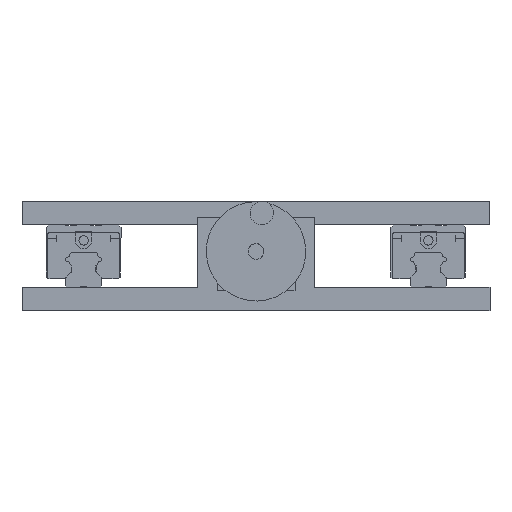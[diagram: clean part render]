
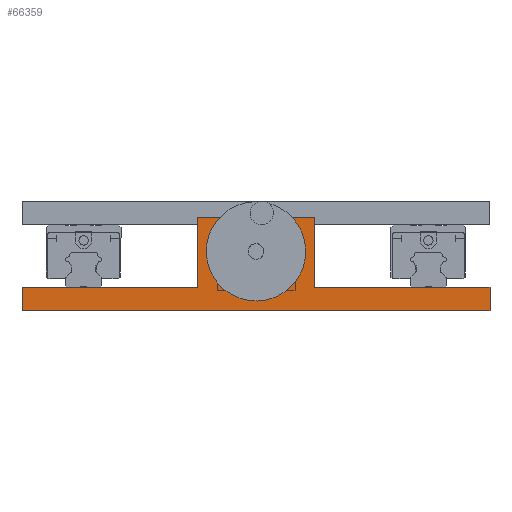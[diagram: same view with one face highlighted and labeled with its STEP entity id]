
A CAD part, front view. The second image highlights one B-rep face of the part: STEP entity #66359.
In plain terms, the highlighted planar face has unit normal (0, -1, 0).
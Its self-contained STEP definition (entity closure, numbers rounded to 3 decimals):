
#289 = ORIENTED_EDGE ( 'NONE', *, *, #19655, .F. ) ;
#582 = ORIENTED_EDGE ( 'NONE', *, *, #37392, .T. ) ;
#1109 = CARTESIAN_POINT ( 'NONE',  ( -37.5, -666.5, 15. ) ) ;
#4975 = ORIENTED_EDGE ( 'NONE', *, *, #13966, .F. ) ;
#4990 = VERTEX_POINT ( 'NONE', #6484 ) ;
#5862 = VERTEX_POINT ( 'NONE', #23070 ) ;
#6120 = ORIENTED_EDGE ( 'NONE', *, *, #16783, .F. ) ;
#6167 = DIRECTION ( 'NONE',  ( 0., 0., 1. ) ) ;
#6484 = CARTESIAN_POINT ( 'NONE',  ( -37.5, -666.5, 60. ) ) ;
#6650 = VERTEX_POINT ( 'NONE', #46703 ) ;
#6993 = EDGE_CURVE ( 'NONE', #25674, #30418, #14203, .T. ) ;
#7890 = VECTOR ( 'NONE', #20373, 1000. ) ;
#8882 = CARTESIAN_POINT ( 'NONE',  ( -150., -666.5, 15. ) ) ;
#9298 = ORIENTED_EDGE ( 'NONE', *, *, #6993, .F. ) ;
#9954 = AXIS2_PLACEMENT_3D ( 'NONE', #41459, #35412, #71129 ) ;
#10415 = LINE ( 'NONE', #73735, #31932 ) ;
#13966 = EDGE_CURVE ( 'NONE', #21251, #25674, #32695, .T. ) ;
#14203 = LINE ( 'NONE', #63141, #19069 ) ;
#14385 = CARTESIAN_POINT ( 'NONE',  ( -150., -666.5, 15. ) ) ;
#14650 = VERTEX_POINT ( 'NONE', #33177 ) ;
#15055 = VECTOR ( 'NONE', #55129, 1000. ) ;
#15185 = PLANE ( 'NONE',  #39817 ) ;
#15549 = DIRECTION ( 'NONE',  ( 1., 0., 0. ) ) ;
#16783 = EDGE_CURVE ( 'NONE', #4990, #5862, #27404, .T. ) ;
#18858 = VERTEX_POINT ( 'NONE', #59624 ) ;
#18862 = ORIENTED_EDGE ( 'NONE', *, *, #67741, .T. ) ;
#19069 = VECTOR ( 'NONE', #43354, 1000. ) ;
#19327 = CARTESIAN_POINT ( 'NONE',  ( -37.5, -666.5, 60. ) ) ;
#19655 = EDGE_CURVE ( 'NONE', #5862, #21251, #19944, .T. ) ;
#19944 = LINE ( 'NONE', #80376, #15055 ) ;
#20373 = DIRECTION ( 'NONE',  ( 1., 0., 0. ) ) ;
#21251 = VERTEX_POINT ( 'NONE', #27003 ) ;
#21967 = ORIENTED_EDGE ( 'NONE', *, *, #73510, .F. ) ;
#23070 = CARTESIAN_POINT ( 'NONE',  ( 37.5, -666.5, 60. ) ) ;
#24420 = CIRCLE ( 'NONE', #9954, 5. ) ;
#24812 = ORIENTED_EDGE ( 'NONE', *, *, #77506, .F. ) ;
#25674 = VERTEX_POINT ( 'NONE', #41218 ) ;
#26501 = VERTEX_POINT ( 'NONE', #1109 ) ;
#27003 = CARTESIAN_POINT ( 'NONE',  ( 37.5, -666.5, 15. ) ) ;
#27404 = LINE ( 'NONE', #51132, #7890 ) ;
#28298 = FACE_OUTER_BOUND ( 'NONE', #75458, .T. ) ;
#30418 = VERTEX_POINT ( 'NONE', #73669 ) ;
#31137 = DIRECTION ( 'NONE',  ( 0., 0., -1. ) ) ;
#31932 = VECTOR ( 'NONE', #36088, 1000. ) ;
#32695 = LINE ( 'NONE', #8882, #48329 ) ;
#33177 = CARTESIAN_POINT ( 'NONE',  ( 0., -666.5, 33. ) ) ;
#35412 = DIRECTION ( 'NONE',  ( 0., -1., 0. ) ) ;
#36088 = DIRECTION ( 'NONE',  ( 0., 0., -1. ) ) ;
#37392 = EDGE_CURVE ( 'NONE', #4990, #26501, #67832, .T. ) ;
#38686 = EDGE_CURVE ( 'NONE', #18858, #41232, #10415, .T. ) ;
#39817 = AXIS2_PLACEMENT_3D ( 'NONE', #14385, #71734, #77996 ) ;
#41218 = CARTESIAN_POINT ( 'NONE',  ( 150., -666.5, 15. ) ) ;
#41232 = VERTEX_POINT ( 'NONE', #54226 ) ;
#41459 = CARTESIAN_POINT ( 'NONE',  ( 0., -666.5, 38. ) ) ;
#43354 = DIRECTION ( 'NONE',  ( 0., 0., -1. ) ) ;
#46703 = CARTESIAN_POINT ( 'NONE',  ( 0., -666.5, 43. ) ) ;
#47223 = CIRCLE ( 'NONE', #64722, 5. ) ;
#48329 = VECTOR ( 'NONE', #52984, 1000. ) ;
#51132 = CARTESIAN_POINT ( 'NONE',  ( -37.5, -666.5, 60. ) ) ;
#52984 = DIRECTION ( 'NONE',  ( 1., 0., 0. ) ) ;
#53325 = VECTOR ( 'NONE', #62998, 1000. ) ;
#53609 = ORIENTED_EDGE ( 'NONE', *, *, #73384, .F. ) ;
#54226 = CARTESIAN_POINT ( 'NONE',  ( -150., -666.5, 0. ) ) ;
#55129 = DIRECTION ( 'NONE',  ( 0., 0., -1. ) ) ;
#56019 = CARTESIAN_POINT ( 'NONE',  ( 0., -666.5, 38. ) ) ;
#59624 = CARTESIAN_POINT ( 'NONE',  ( -150., -666.5, 15. ) ) ;
#62353 = DIRECTION ( 'NONE',  ( 0., -1., 0. ) ) ;
#62998 = DIRECTION ( 'NONE',  ( 1., 0., 0. ) ) ;
#63141 = CARTESIAN_POINT ( 'NONE',  ( 150., -666.5, 15. ) ) ;
#64722 = AXIS2_PLACEMENT_3D ( 'NONE', #56019, #62353, #6167 ) ;
#66359 = ADVANCED_FACE ( 'NONE', ( #81271, #28298 ), #15185, .F. ) ;
#67741 = EDGE_CURVE ( 'NONE', #41232, #30418, #79840, .T. ) ;
#67804 = VECTOR ( 'NONE', #15549, 1000. ) ;
#67832 = LINE ( 'NONE', #19327, #74705 ) ;
#69611 = CARTESIAN_POINT ( 'NONE',  ( -150., -666.5, 0. ) ) ;
#71129 = DIRECTION ( 'NONE',  ( 0., 0., 1. ) ) ;
#71734 = DIRECTION ( 'NONE',  ( 0., 1., 0. ) ) ;
#72211 = ORIENTED_EDGE ( 'NONE', *, *, #38686, .T. ) ;
#72794 = EDGE_LOOP ( 'NONE', ( #24812, #53609 ) ) ;
#73384 = EDGE_CURVE ( 'NONE', #14650, #6650, #47223, .T. ) ;
#73510 = EDGE_CURVE ( 'NONE', #18858, #26501, #76653, .T. ) ;
#73669 = CARTESIAN_POINT ( 'NONE',  ( 150., -666.5, 0. ) ) ;
#73735 = CARTESIAN_POINT ( 'NONE',  ( -150., -666.5, 15. ) ) ;
#74705 = VECTOR ( 'NONE', #31137, 1000. ) ;
#75458 = EDGE_LOOP ( 'NONE', ( #18862, #9298, #4975, #289, #6120, #582, #21967, #72211 ) ) ;
#76653 = LINE ( 'NONE', #78090, #67804 ) ;
#77506 = EDGE_CURVE ( 'NONE', #6650, #14650, #24420, .T. ) ;
#77996 = DIRECTION ( 'NONE',  ( 0., 0., 1. ) ) ;
#78090 = CARTESIAN_POINT ( 'NONE',  ( -150., -666.5, 15. ) ) ;
#79840 = LINE ( 'NONE', #69611, #53325 ) ;
#80376 = CARTESIAN_POINT ( 'NONE',  ( 37.5, -666.5, 60. ) ) ;
#81271 = FACE_BOUND ( 'NONE', #72794, .T. ) ;
